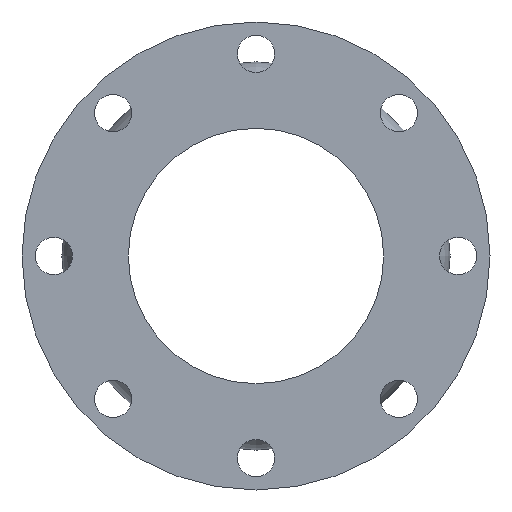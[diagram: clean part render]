
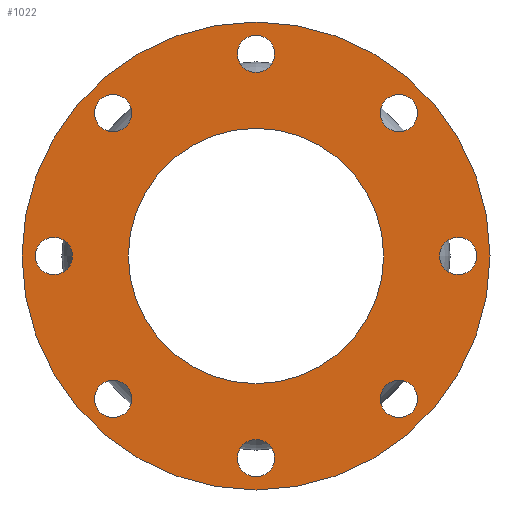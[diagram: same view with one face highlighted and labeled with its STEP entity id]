
A CAD part, left-side view. The second image highlights one B-rep face of the part: STEP entity #1022.
In plain terms, the highlighted planar face has unit normal (-1, 0, 0).
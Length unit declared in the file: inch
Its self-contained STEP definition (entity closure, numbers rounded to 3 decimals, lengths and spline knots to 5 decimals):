
#359=CARTESIAN_POINT('',(-3.,3.66812,-3.0494));
#360=VERTEX_POINT('',#359);
#361=CARTESIAN_POINT('',(-3.,3.35876,-3.35876));
#362=DIRECTION('',(1.0,0.0,0.0));
#363=DIRECTION('',(0.0,-0.707,-0.707));
#364=AXIS2_PLACEMENT_3D('',#361,#362,#363);
#365=CIRCLE('',#364,0.4375);
#366=EDGE_CURVE('',#360,#360,#365,.T.);
#387=CARTESIAN_POINT('',(-3.,0.4375,-4.75));
#388=VERTEX_POINT('',#387);
#389=CARTESIAN_POINT('',(-3.,0.,-4.75));
#390=DIRECTION('',(1.0,0.0,0.0));
#391=DIRECTION('',(0.0,-1.0,0.0));
#392=AXIS2_PLACEMENT_3D('',#389,#390,#391);
#393=CIRCLE('',#392,0.4375);
#394=EDGE_CURVE('',#388,#388,#393,.T.);
#415=CARTESIAN_POINT('',(-3.,-3.0494,-3.66812));
#416=VERTEX_POINT('',#415);
#417=CARTESIAN_POINT('',(-3.,-3.35876,-3.35876));
#418=DIRECTION('',(1.0,0.0,0.0));
#419=DIRECTION('',(0.0,-0.707,0.707));
#420=AXIS2_PLACEMENT_3D('',#417,#418,#419);
#421=CIRCLE('',#420,0.4375);
#422=EDGE_CURVE('',#416,#416,#421,.T.);
#443=CARTESIAN_POINT('',(-3.,-4.75,-0.4375));
#444=VERTEX_POINT('',#443);
#445=CARTESIAN_POINT('',(-3.,-4.75,0.));
#446=DIRECTION('',(1.0,0.0,0.0));
#447=DIRECTION('',(0.0,0.0,1.0));
#448=AXIS2_PLACEMENT_3D('',#445,#446,#447);
#449=CIRCLE('',#448,0.4375);
#450=EDGE_CURVE('',#444,#444,#449,.T.);
#471=CARTESIAN_POINT('',(-3.,-3.66812,3.0494));
#472=VERTEX_POINT('',#471);
#473=CARTESIAN_POINT('',(-3.,-3.35876,3.35876));
#474=DIRECTION('',(1.0,0.0,0.0));
#475=DIRECTION('',(0.0,0.707,0.707));
#476=AXIS2_PLACEMENT_3D('',#473,#474,#475);
#477=CIRCLE('',#476,0.4375);
#478=EDGE_CURVE('',#472,#472,#477,.T.);
#499=CARTESIAN_POINT('',(-3.,-0.4375,4.75));
#500=VERTEX_POINT('',#499);
#501=CARTESIAN_POINT('',(-3.,0.,4.75));
#502=DIRECTION('',(1.0,0.0,0.0));
#503=DIRECTION('',(0.0,1.0,0.0));
#504=AXIS2_PLACEMENT_3D('',#501,#502,#503);
#505=CIRCLE('',#504,0.4375);
#506=EDGE_CURVE('',#500,#500,#505,.T.);
#527=CARTESIAN_POINT('',(-3.,3.0494,3.66812));
#528=VERTEX_POINT('',#527);
#529=CARTESIAN_POINT('',(-3.,3.35876,3.35876));
#530=DIRECTION('',(1.0,0.0,0.0));
#531=DIRECTION('',(0.0,0.707,-0.707));
#532=AXIS2_PLACEMENT_3D('',#529,#530,#531);
#533=CIRCLE('',#532,0.4375);
#534=EDGE_CURVE('',#528,#528,#533,.T.);
#555=CARTESIAN_POINT('',(-3.,4.75,0.4375));
#556=VERTEX_POINT('',#555);
#557=CARTESIAN_POINT('',(-3.,4.75,0.0));
#558=DIRECTION('',(1.0,0.0,0.0));
#559=DIRECTION('',(0.0,0.0,-1.0));
#560=AXIS2_PLACEMENT_3D('',#557,#558,#559);
#561=CIRCLE('',#560,0.4375);
#562=EDGE_CURVE('',#556,#556,#561,.T.);
#583=CARTESIAN_POINT('',(-3.,5.5,0.0));
#584=VERTEX_POINT('',#583);
#585=CARTESIAN_POINT('',(-3.,0.0,0.0));
#586=DIRECTION('',(1.0,0.0,0.0));
#587=DIRECTION('',(0.0,1.0,0.0));
#588=AXIS2_PLACEMENT_3D('',#585,#586,#587);
#589=CIRCLE('',#588,5.5);
#590=EDGE_CURVE('',#584,#584,#589,.T.);
#972=CARTESIAN_POINT('',(-3.0,3.,0.0));
#973=VERTEX_POINT('',#972);
#974=CARTESIAN_POINT('',(-3.0,0.0,0.0));
#975=DIRECTION('',(1.0,0.0,0.0));
#976=DIRECTION('',(0.0,1.0,0.0));
#977=AXIS2_PLACEMENT_3D('',#974,#975,#976);
#978=CIRCLE('',#977,3.);
#979=EDGE_CURVE('',#973,#973,#978,.T.);
#987=CARTESIAN_POINT('',(-3.,4.25,0.0));
#988=DIRECTION('',(-1.0,0.0,0.0));
#989=DIRECTION('',(0.0,0.0,1.0));
#990=AXIS2_PLACEMENT_3D('',#987,#988,#989);
#991=PLANE('',#990);
#992=ORIENTED_EDGE('',*,*,#590,.F.);
#993=EDGE_LOOP('',(#992));
#994=FACE_OUTER_BOUND('',#993,.T.);
#995=ORIENTED_EDGE('',*,*,#366,.T.);
#996=EDGE_LOOP('',(#995));
#997=FACE_BOUND('',#996,.T.);
#998=ORIENTED_EDGE('',*,*,#394,.T.);
#999=EDGE_LOOP('',(#998));
#1000=FACE_BOUND('',#999,.T.);
#1001=ORIENTED_EDGE('',*,*,#422,.T.);
#1002=EDGE_LOOP('',(#1001));
#1003=FACE_BOUND('',#1002,.T.);
#1004=ORIENTED_EDGE('',*,*,#450,.T.);
#1005=EDGE_LOOP('',(#1004));
#1006=FACE_BOUND('',#1005,.T.);
#1007=ORIENTED_EDGE('',*,*,#478,.T.);
#1008=EDGE_LOOP('',(#1007));
#1009=FACE_BOUND('',#1008,.T.);
#1010=ORIENTED_EDGE('',*,*,#506,.T.);
#1011=EDGE_LOOP('',(#1010));
#1012=FACE_BOUND('',#1011,.T.);
#1013=ORIENTED_EDGE('',*,*,#534,.T.);
#1014=EDGE_LOOP('',(#1013));
#1015=FACE_BOUND('',#1014,.T.);
#1016=ORIENTED_EDGE('',*,*,#562,.T.);
#1017=EDGE_LOOP('',(#1016));
#1018=FACE_BOUND('',#1017,.T.);
#1019=ORIENTED_EDGE('',*,*,#979,.T.);
#1020=EDGE_LOOP('',(#1019));
#1021=FACE_BOUND('',#1020,.T.);
#1022=ADVANCED_FACE('',(#994,#997,#1000,#1003,#1006,#1009,#1012,#1015,#1018,#1021),#991,.T.);
